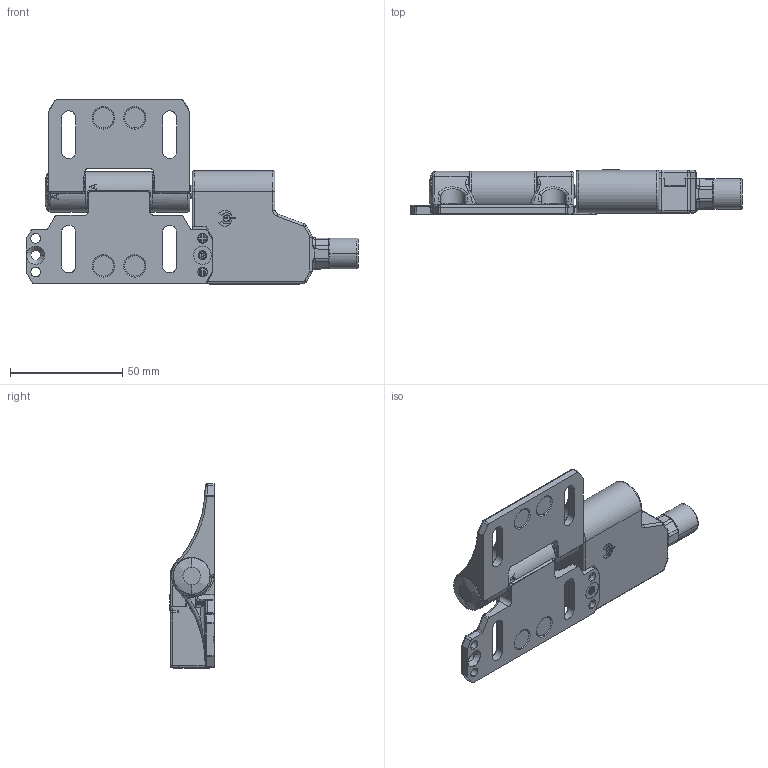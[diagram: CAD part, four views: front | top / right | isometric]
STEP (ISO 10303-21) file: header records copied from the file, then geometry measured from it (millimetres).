
FILE_DESCRIPTION((''),'2;1');
FILE_NAME('2016161_ASM','2014-07-03T',('rink'),(''),'PRO/ENGINEER BY PARAMETRIC TECHNOLOGY CORPORATION, 2011040','PRO/ENGINEER BY PARAMETRIC TECHNOLOGY CORPORATION, 2011040','');
FILE_SCHEMA(('AUTOMOTIVE_DESIGN_CC2 { 1 2 10303 214 -1 1 5 2 }'));
Length unit declared in the file: millimetre
Products named in the file (4): 2016160; 2016156; 2016155; 2016161_ASM
Assembly tree (3 placements, depth 2):
  2016161_ASM
    2016160
    2016156
    2016155
Bounding box: 148 x 19.7 x 82.1 mm (x, y, z)
Volume: 57376.2 mm3; surface area: 40034.2 mm2
Topology: 3 solids, 3 shells, 2148 faces, 5625 edges, 3499 vertices
Faces by surface type: plane 900, cylinder 770, bspline 189, torus 168, sphere 73, cone 48
Entity records: 75848 total; most frequent: CARTESIAN_POINT 21123, ORIENTED_EDGE 11108, DIRECTION 10968, EDGE_CURVE 5554, AXIS2_PLACEMENT_3D 4040, VERTEX_POINT 3489, VECTOR 2888, LINE 2888
